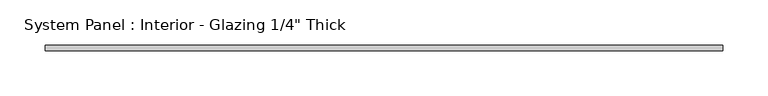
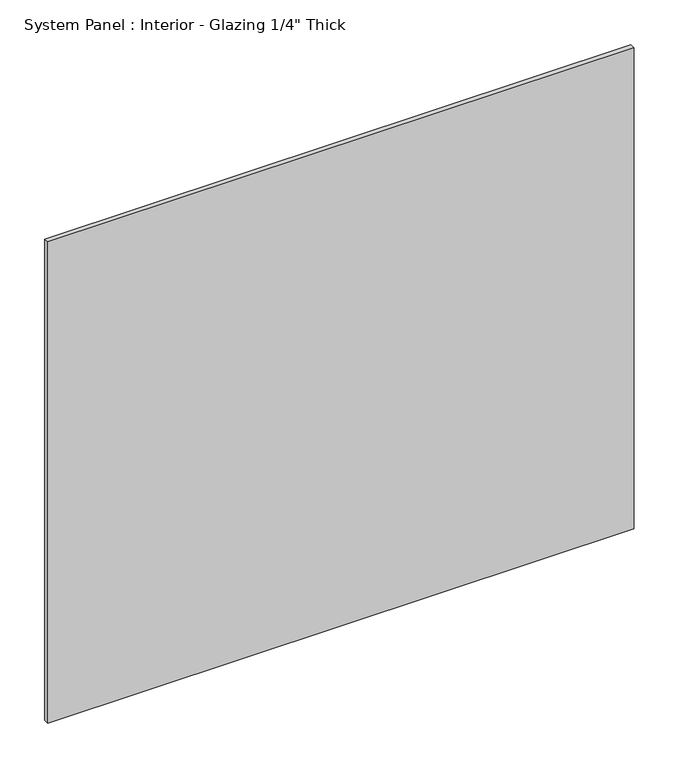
"""IFC4 building model written with IfcOpenShell, lengths in millimetres: plate geometry."""

from ifc_helpers import new_model, si_unit, origin, origin_with_axes, place, context, project, spatial, polyline, outline, extrude, source, transform, mapped, element, save


def plate_16e578ed(model_context):
    return source(origin(), model_context, "Body", "SweptSolid", [
        extrude(outline(polyline([(376.1493109, -3.175), (-376.1493109, -3.175), (-376.1493109, 3.175), (376.1493109, 3.175), (376.1493109, -3.175)])), origin_with_axes(), (0.0, 0.0, 1.0), 652.6697437),
    ])


if __name__ == "__main__":
    model = new_model("IFC4")
    model_context = context("Model", 3, world=origin())
    ifc_project = project(units=[si_unit("LENGTHUNIT", "METRE", prefix="MILLI")], contexts=[model_context])
    site = spatial("IfcSite", under=ifc_project)
    building = spatial("IfcBuilding", under=site)
    placement = place(None, origin())
    plate_shape = plate_16e578ed(model_context)
    element("IfcPlate", 1, ObjectType="System Panel : Interior - Glazing 1/4\" Thick", at=placement, inside=building, context=model_context, shape_type="MappedRepresentation", body=[
        mapped(plate_shape, transform((0.0, 0.0, 0.0), x_axis=(1.0, 0.0, 0.0), y_axis=(0.0, 1.0, 0.0), z_axis=(0.0, 0.0, 1.0))),
    ])
    save(model, "model.ifc")
